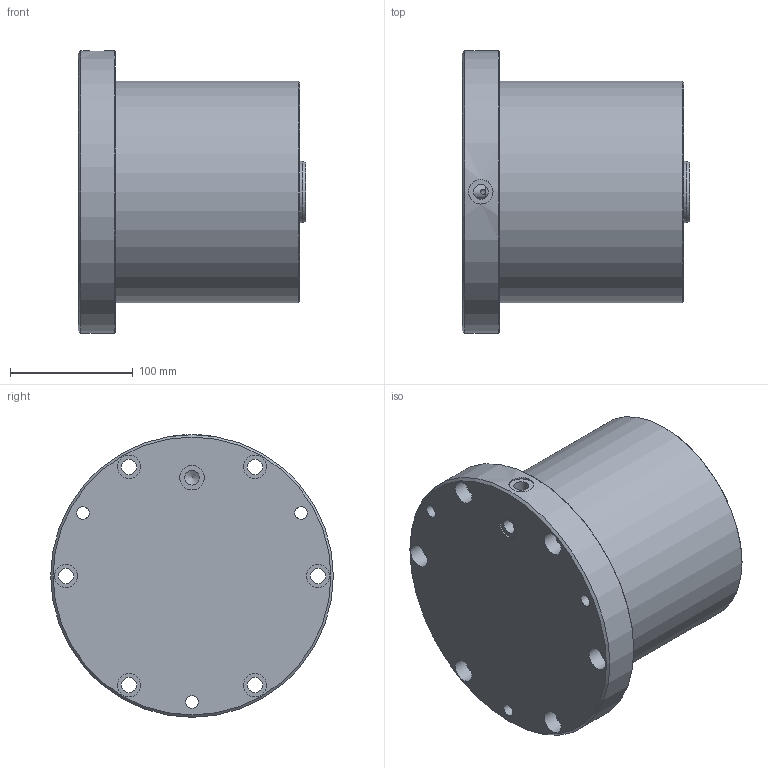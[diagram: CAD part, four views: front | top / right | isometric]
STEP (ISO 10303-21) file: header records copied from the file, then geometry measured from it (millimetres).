
FILE_DESCRIPTION( ( 'Unknown' ), '1' );
FILE_NAME( 'F:/JAKOB-STEP+IGES-Dateien/STEP-Dateien/ZDF/ZDFu 25000.stp', 'Unknown', ( 'Unknown' ), ( 'Unknown' ), 'XStep 1.0', 'Unknown', ' ' );
FILE_SCHEMA( ( 'CONFIG_CONTROL_DESIGN' ) );
Length unit declared in the file: millimetre
Products named in the file (1): 1
Bounding box: 185 x 230 x 230 mm (x, y, z)
Volume: 5022545.8 mm3; surface area: 200036.2 mm2
Topology: 1 solids, 1 shells, 43 faces, 93 edges, 61 vertices
Faces by surface type: cylinder 23, plane 12, cone 8
Full cylindrical faces by diameter (mm): 4 x1, 10.2 x3, 12 x2, 12.5 x6, 19 x6, 20 x2, 50 x1, 180 x1, 230 x1
Entity records: 1207 total; most frequent: CARTESIAN_POINT 343, DIRECTION 182, ORIENTED_EDGE 102, EDGE_LOOP 101, AXIS2_PLACEMENT_3D 91, FACE_OUTER_BOUND 65, VERTEX_POINT 51, EDGE_CURVE 51
